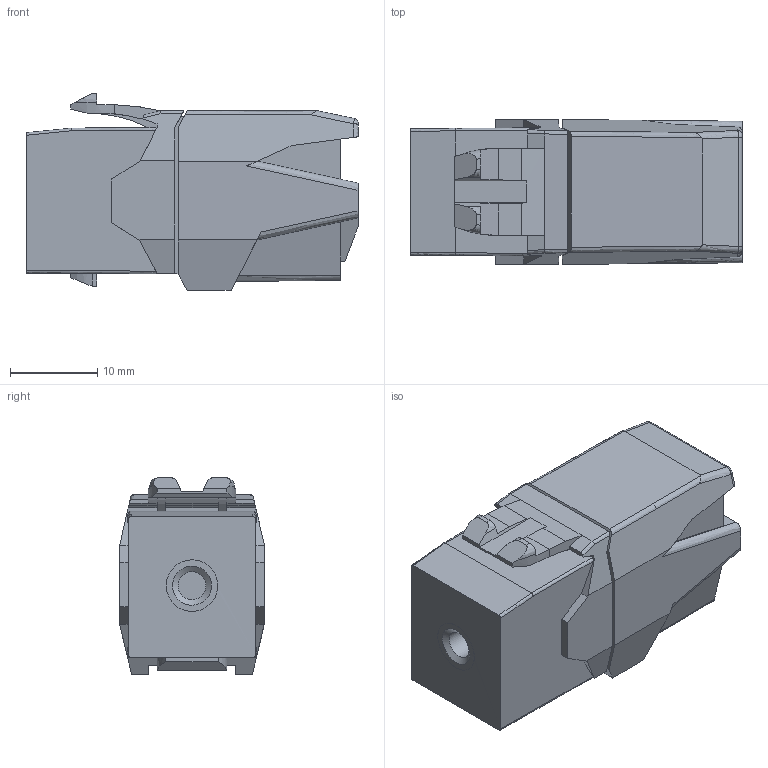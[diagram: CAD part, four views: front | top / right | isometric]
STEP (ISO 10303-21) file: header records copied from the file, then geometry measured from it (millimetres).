
FILE_DESCRIPTION( ('This file contains a STEP AP42 implementation' ,'as created by ZW3D STEP Interface translator.') ,'2;1' );
FILE_NAME( 'TB-026_210MS01N2WH_SD.stp' ,'26 330.134526', (''), ('ZWCAD Software Co.'), 'Version 1.0', 'ZW3D to STEP translator', '' );
FILE_SCHEMA(('AUTOMOTIVE_DESIGN'));
Length unit declared in the file: millimetre
Products named in the file (2): 0; TB-026_210MS01N2WH_SD
Bounding box: 38 x 16.56 x 22.55 mm (x, y, z)
Volume: 10140.7 mm3; surface area: 3681 mm2
Topology: 1 solids, 1 shells, 158 faces, 435 edges, 283 vertices
Faces by surface type: bspline 158
Entity records: 7845 total; most frequent: CARTESIAN_POINT 5030, ORIENTED_EDGE 870, B_SPLINE_CURVE_WITH_KNOTS 435, EDGE_CURVE 435, VERTEX_POINT 283, EDGE_LOOP 162, FACE_OUTER_BOUND 158, ADVANCED_FACE 158
